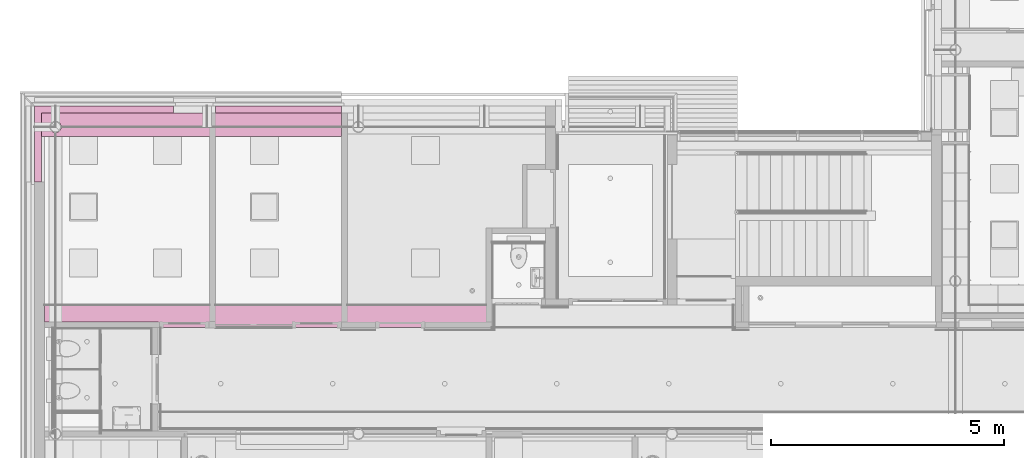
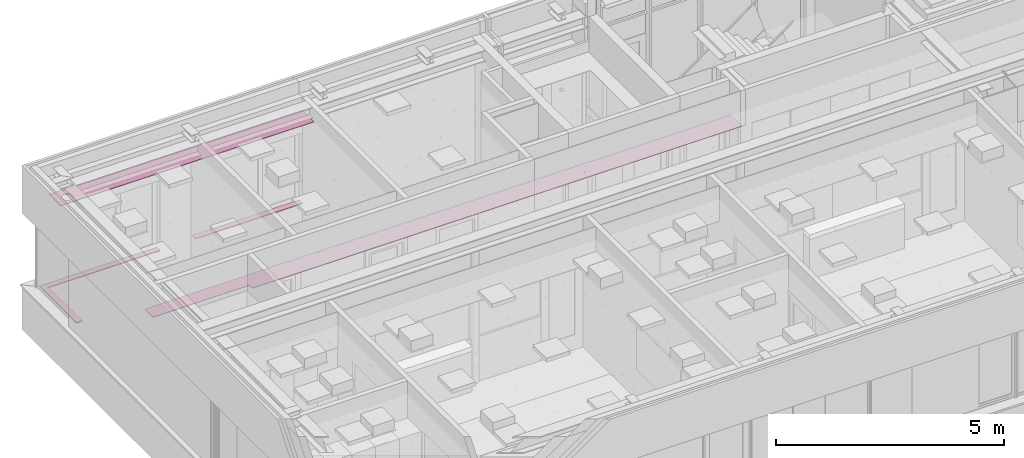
# One storey, part 315 of 347: 4 furnishings.
"""IFC2X3 building model written with IfcOpenShell, lengths in millimetres."""

from ifc_helpers import new_model, entity, si_unit, converted_unit, derived_unit, money_unit, direction, frame, origin_with_axes, place, context, subcontext, project, spatial, faceted_brep, material, type_object, element, save


model = new_model("IFC2X3")

# Units and contexts
model_context = context("Model", 3, precision=0.01, world=origin_with_axes(), true_north=direction((0.0, 1.0)))
plan_context = context("Plan", 3, precision=0.01, world=origin_with_axes(), true_north=direction((0.0, 1.0)))
body_context = subcontext(model_context, "Body", "Model", "MODEL_VIEW")
ifc_project = project(units=[si_unit("LENGTHUNIT", "METRE", prefix="MILLI"), si_unit("AREAUNIT", "SQUARE_METRE"), si_unit("VOLUMEUNIT", "CUBIC_METRE"), converted_unit("PLANEANGLEUNIT", "DEGREE", entity("IfcPlaneAngleMeasure", 0.0174532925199), si_unit("PLANEANGLEUNIT", "RADIAN"), dimensions=[0, 0, 0, 0, 0, 0, 0]), money_unit("EUR"), converted_unit("TIMEUNIT", "Year", entity("IfcTimeMeasure", 31556926.0), si_unit("TIMEUNIT", "SECOND"), dimensions=[0, 0, 1, 0, 0, 0, 0]), si_unit("MASSUNIT", "GRAM", prefix="KILO"), si_unit("THERMODYNAMICTEMPERATUREUNIT", "DEGREE_CELSIUS"), si_unit("LUMINOUSINTENSITYUNIT", "LUMEN"), si_unit("ENERGYUNIT", "JOULE", prefix="MEGA"), derived_unit("THERMALCONDUCTANCEUNIT", [(si_unit("POWERUNIT", "WATT"), 1), (si_unit("LENGTHUNIT", "METRE"), -1), (si_unit("THERMODYNAMICTEMPERATUREUNIT", "KELVIN"), -1)]), derived_unit("SPECIFICHEATCAPACITYUNIT", [(si_unit("ENERGYUNIT", "JOULE"), 1), (si_unit("MASSUNIT", "GRAM", prefix="KILO"), -1), (si_unit("THERMODYNAMICTEMPERATUREUNIT", "KELVIN"), -1)]), derived_unit("MASSDENSITYUNIT", [(si_unit("MASSUNIT", "GRAM", prefix="KILO"), 1), (si_unit("VOLUMEUNIT", "CUBIC_METRE"), -1)])], contexts=[model_context, plan_context])

# Site, building, storey
site_placement = place(None, origin_with_axes())
site = spatial("IfcSite", under=ifc_project, at=site_placement, Name="Site", CompositionType="ELEMENT")
building_placement = place(site_placement, origin_with_axes())
building = spatial("IfcBuilding", under=site, at=building_placement, Name="Naam gebouw", CompositionType="ELEMENT")
storey_placement = place(building_placement, origin_with_axes())
storey = spatial("IfcBuildingStorey", under=building, at=storey_placement, Name="begane grond", CompositionType="ELEMENT", Elevation=0.0)

# Furnishings
ifc_material_1 = material(Name="ALG - LICHTE SCHEIDINGSWAND")
furniture_type_1 = type_object("IfcFurnitureType", Name="44 koof plaf 50", AssemblyPlace="NOTDEFINED")
furnishing_1_placement = place(storey_placement, frame((5060.0, 14890.0000948, 2600.0), z_axis=(0.0, 0.0, 1.0), x_axis=(1.0, 0.0, 0.0)))
element("IfcFurnishingElement", 1, at=furnishing_1_placement, inside=storey, type_object=furniture_type_1, material=ifc_material_1, Name="72_75 vaste inrichting", ObjectType="SHELF", context=body_context, shape_type="Brep", body=[
    faceted_brep([(0.0, 0.0, 12.0), (0.0, 0.0, 0.0), (0.0, -365.000155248, 0.0), (0.0, -365.000155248, 12.0), (14845.0, 0.0, 12.0), (14845.0, 0.0, 0.0), (14845.0, -490.000094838, 0.0), (2443.03685954, -490.000094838, 0.0), (2443.03685954, -365.000155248, 0.0), (2443.03685954, -365.000155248, 12.0), (2443.03685954, -490.000094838, 12.0), (14845.0, -490.000094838, 12.0)], [[[0, 1, 2, 3]], [[4, 5, 1, 0]], [[2, 1, 5, 6, 7, 8]], [[3, 2, 8, 9]], [[4, 0, 3, 9, 10, 11]], [[11, 6, 5, 4]], [[10, 7, 6, 11]], [[9, 8, 7, 10]]]),
])
furnishing_2_placement = place(storey_placement, frame((5000.0, 18490.000144, 3200.0), z_axis=(0.0, 0.0, 1.0), x_axis=(1.0, 0.0, 0.0)))
element("IfcFurnishingElement", 2, at=furnishing_2_placement, inside=storey, type_object=furniture_type_1, material=ifc_material_1, Name="72_75 vaste inrichting", ObjectType="SHELF", context=body_context, shape_type="Brep", body=[
    faceted_brep([(6424.99999895, 509.999855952, 0.0), (6424.99999895, 0.0, 0.0), (0.0, 0.0, 0.0), (0.0, 509.999855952, 0.0), (395.578898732, 133.778227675, 0.0), (410.143444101, 156.957568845, 0.0), (419.184937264, 182.796671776, 0.0), (422.25, 209.999855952, 0.0), (419.184937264, 237.203040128, 0.0), (410.143444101, 263.042143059, 0.0), (395.578898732, 286.22148423, 0.0), (376.221628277, 305.578754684, 0.0), (353.042287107, 320.143300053, 0.0), (327.203184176, 329.184793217, 0.0), (300.0, 332.249855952, 0.0), (272.796815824, 329.184793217, 0.0), (246.957712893, 320.143300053, 0.0), (223.778371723, 305.578754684, 0.0), (204.421101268, 286.22148423, 0.0), (189.856555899, 263.042143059, 0.0), (180.815062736, 237.203040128, 0.0), (177.75, 209.999855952, 0.0), (180.815062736, 182.796671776, 0.0), (189.856555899, 156.957568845, 0.0), (204.421101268, 133.778227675, 0.0), (223.778371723, 114.420957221, 0.0), (246.957712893, 99.8564118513, 0.0), (272.796815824, 90.8149186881, 0.0), (300.0, 87.7498559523, 0.0), (327.203184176, 90.8149186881, 0.0), (353.042287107, 99.8564118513, 0.0), (376.221628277, 114.420957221, 0.0), (6424.99999895, 509.999855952, 12.0), (6424.99999895, 0.0, 12.0), (0.0, 0.0, 12.0), (0.0, 509.999855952, 12.0), (395.578898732, 133.778227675, 12.0), (410.143444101, 156.957568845, 12.0), (419.184937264, 182.796671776, 12.0), (422.25, 209.999855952, 12.0), (419.184937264, 237.203040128, 12.0), (410.143444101, 263.042143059, 12.0), (395.578898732, 286.22148423, 12.0), (376.221628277, 305.578754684, 12.0), (353.042287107, 320.143300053, 12.0), (327.203184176, 329.184793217, 12.0), (300.0, 332.249855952, 12.0), (272.796815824, 329.184793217, 12.0), (246.957712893, 320.143300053, 12.0), (223.778371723, 305.578754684, 12.0), (204.421101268, 286.22148423, 12.0), (189.856555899, 263.042143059, 12.0), (180.815062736, 237.203040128, 12.0), (177.75, 209.999855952, 12.0), (180.815062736, 182.796671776, 12.0), (189.856555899, 156.957568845, 12.0), (204.421101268, 133.778227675, 12.0), (223.778371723, 114.420957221, 12.0), (246.957712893, 99.8564118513, 12.0), (272.796815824, 90.8149186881, 12.0), (300.0, 87.7498559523, 12.0), (327.203184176, 90.8149186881, 12.0), (353.042287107, 99.8564118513, 12.0), (376.221628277, 114.420957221, 12.0)], [[[0, 1, 2, 3], [4, 5, 6, 7, 8, 9, 10, 11, 12, 13, 14, 15, 16, 17, 18, 19, 20, 21, 22, 23, 24, 25, 26, 27, 28, 29, 30, 31]], [[32, 33, 1, 0]], [[33, 34, 2, 1]], [[34, 35, 3, 2]], [[35, 32, 0, 3]], [[4, 36, 37, 5]], [[5, 37, 38, 6]], [[6, 38, 39, 7]], [[7, 39, 40, 8]], [[8, 40, 41, 9]], [[9, 41, 42, 10]], [[10, 42, 43, 11]], [[11, 43, 44, 12]], [[12, 44, 45, 13]], [[13, 45, 46, 14]], [[14, 46, 47, 15]], [[15, 47, 48, 16]], [[16, 48, 49, 17]], [[17, 49, 50, 18]], [[18, 50, 51, 19]], [[19, 51, 52, 20]], [[20, 52, 53, 21]], [[21, 53, 54, 22]], [[22, 54, 55, 23]], [[23, 55, 56, 24]], [[24, 56, 57, 25]], [[25, 57, 58, 26]], [[26, 58, 59, 27]], [[27, 59, 60, 28]], [[28, 60, 61, 29]], [[29, 61, 62, 30]], [[30, 62, 63, 31]], [[31, 63, 36, 4]], [[32, 35, 34, 33], [42, 41, 40, 39, 38, 37, 36, 63, 62, 61, 60, 59, 58, 57, 56, 55, 54, 53, 52, 51, 50, 49, 48, 47, 46, 45, 44, 43]]]),
])
ifc_material_2 = material(Name="42 vensterbank")
furniture_type_2 = type_object("IfcFurnitureType", Name="42 vensterbank 20", AssemblyPlace="NOTDEFINED")
furnishing_3_placement = place(storey_placement, frame((8725.00271367, 19000.0000015, 720.0), z_axis=(0.0, 0.0, 1.0), x_axis=(1.0, 0.0, 0.0)))
element("IfcFurnishingElement", 3, at=furnishing_3_placement, inside=storey, type_object=furniture_type_2, material=ifc_material_2, Name="72_73 vaste inrichting", ObjectType="SHELF", context=body_context, shape_type="Brep", body=[
    faceted_brep([(0.0, 0.0, 0.0), (0.0, 0.0, -20.0), (2699.99728633, 0.0, -20.0), (2699.99728633, 0.0, 0.0), (0.0, 150.000004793, 0.0), (0.0, 150.000004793, -20.0), (2699.99728633, 150.000004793, -20.0), (2699.99728633, 150.000004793, 0.0)], [[[0, 1, 2, 3]], [[4, 5, 1, 0]], [[2, 1, 5, 6]], [[3, 2, 6, 7]], [[4, 0, 3, 7]], [[7, 6, 5, 4]]]),
])
furnishing_4_placement = place(storey_placement, frame((4850.0, 17524.9999966, 720.0), z_axis=(0.0, 0.0, 1.0), x_axis=(1.0, 0.0, 0.0)))
element("IfcFurnishingElement", 4, at=furnishing_4_placement, inside=storey, type_object=furniture_type_2, material=ifc_material_2, Name="72_73 vaste inrichting", ObjectType="SHELF", context=body_context, shape_type="Brep", body=[
    faceted_brep([(0.0, 0.0, 0.0), (0.0, 0.0, -20.0), (150.000017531, 0.0, -20.0), (150.000017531, 0.0, 0.0), (0.0, 1624.9999962, 0.0), (0.0, 1624.9999962, -20.0), (2975.00271367, 1624.9999962, -20.0), (2975.00271367, 1475.00001742, -20.0), (150.000017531, 1475.00001742, -20.0), (150.000017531, 1475.00001742, 0.0), (2975.00271367, 1475.00001742, 0.0), (2975.00271367, 1624.9999962, 0.0)], [[[0, 1, 2, 3]], [[4, 5, 1, 0]], [[2, 1, 5, 6, 7, 8]], [[3, 2, 8, 9]], [[4, 0, 3, 9, 10, 11]], [[11, 6, 5, 4]], [[10, 7, 6, 11]], [[9, 8, 7, 10]]]),
])

save(model, "model.ifc")
